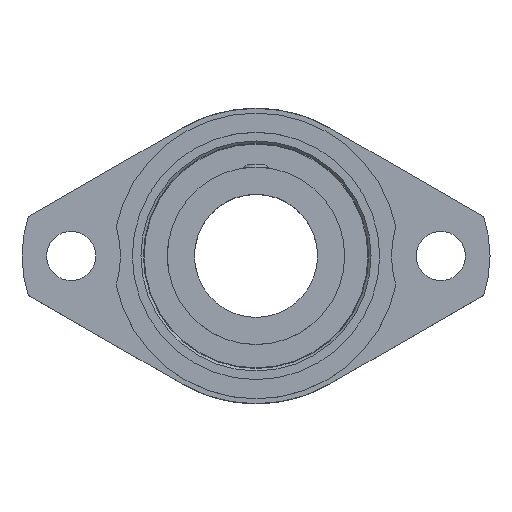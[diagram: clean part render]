
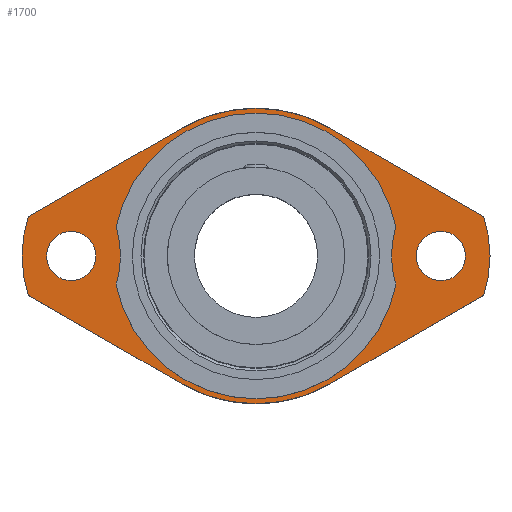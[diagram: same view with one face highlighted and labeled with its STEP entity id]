
A CAD part, top view. The second image highlights one B-rep face of the part: STEP entity #1700.
In plain terms, the highlighted planar face has unit normal (0, 0, 1).
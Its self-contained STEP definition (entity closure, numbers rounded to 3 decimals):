
#672=CARTESIAN_POINT('',(32.5,0.,0.));
#673=VERTEX_POINT('',#672);
#674=CARTESIAN_POINT('',(37.5,0.,0.0));
#675=DIRECTION('',(0.0,0.0,-1.0));
#676=DIRECTION('',(1.0,0.0,0.0));
#677=AXIS2_PLACEMENT_3D('',#674,#675,#676);
#678=CIRCLE('',#677,5.0);
#679=EDGE_CURVE('',#673,#673,#678,.T.);
#692=CARTESIAN_POINT('',(-42.5,0.,0.));
#693=VERTEX_POINT('',#692);
#694=CARTESIAN_POINT('',(-37.5,0.0,0.0));
#695=DIRECTION('',(0.0,0.0,-1.0));
#696=DIRECTION('',(1.0,0.0,0.0));
#697=AXIS2_PLACEMENT_3D('',#694,#695,#696);
#698=CIRCLE('',#697,5.0);
#699=EDGE_CURVE('',#693,#693,#698,.T.);
#1338=CARTESIAN_POINT('',(-28.392,-5.907,0.0));
#1339=VERTEX_POINT('',#1338);
#1346=CARTESIAN_POINT('',(28.392,-5.907,0.0));
#1347=VERTEX_POINT('',#1346);
#1348=CARTESIAN_POINT('',(0.0,0.0,0.0));
#1349=DIRECTION('',(0.0,0.0,-1.0));
#1350=DIRECTION('',(0.979,0.204,0.0));
#1351=AXIS2_PLACEMENT_3D('',#1348,#1349,#1350);
#1352=CIRCLE('',#1351,29.0);
#1353=EDGE_CURVE('',#1347,#1339,#1352,.T.);
#1378=CARTESIAN_POINT('',(-28.392,5.907,0.0));
#1379=VERTEX_POINT('',#1378);
#1386=CARTESIAN_POINT('',(-47.5,0.0,0.0));
#1387=DIRECTION('',(0.0,0.0,1.0));
#1388=DIRECTION('',(0.955,-0.295,0.0));
#1389=AXIS2_PLACEMENT_3D('',#1386,#1387,#1388);
#1390=CIRCLE('',#1389,20.0);
#1391=EDGE_CURVE('',#1339,#1379,#1390,.T.);
#1411=CARTESIAN_POINT('',(28.392,5.907,0.0));
#1412=VERTEX_POINT('',#1411);
#1419=CARTESIAN_POINT('',(0.0,0.0,0.0));
#1420=DIRECTION('',(0.0,0.0,-1.0));
#1421=DIRECTION('',(-0.979,-0.204,0.0));
#1422=AXIS2_PLACEMENT_3D('',#1419,#1420,#1421);
#1423=CIRCLE('',#1422,29.0);
#1424=EDGE_CURVE('',#1379,#1412,#1423,.T.);
#1443=CARTESIAN_POINT('',(47.5,0.,0.0));
#1444=DIRECTION('',(0.0,0.0,1.0));
#1445=DIRECTION('',(-0.955,0.295,0.0));
#1446=AXIS2_PLACEMENT_3D('',#1443,#1444,#1445);
#1447=CIRCLE('',#1446,20.0);
#1448=EDGE_CURVE('',#1412,#1347,#1447,.T.);
#1474=CARTESIAN_POINT('',(46.185,-8.0,0.0));
#1475=VERTEX_POINT('',#1474);
#1476=CARTESIAN_POINT('',(14.985,-25.989,0.0));
#1477=VERTEX_POINT('',#1476);
#1478=CARTESIAN_POINT('',(46.185,-8.0,0.0));
#1479=DIRECTION('',(-0.866,-0.499,0.0));
#1480=VECTOR('',#1479,36.015);
#1481=LINE('',#1478,#1480);
#1482=EDGE_CURVE('',#1475,#1477,#1481,.T.);
#1508=CARTESIAN_POINT('',(-14.985,-25.989,0.0));
#1509=VERTEX_POINT('',#1508);
#1510=CARTESIAN_POINT('',(0.0,0.0,0.0));
#1511=DIRECTION('',(0.0,0.0,-1.0));
#1512=DIRECTION('',(0.499,0.866,0.0));
#1513=AXIS2_PLACEMENT_3D('',#1510,#1511,#1512);
#1514=CIRCLE('',#1513,30.);
#1515=EDGE_CURVE('',#1477,#1509,#1514,.T.);
#1534=CARTESIAN_POINT('',(-46.185,-8.0,0.0));
#1535=VERTEX_POINT('',#1534);
#1536=CARTESIAN_POINT('',(-14.985,-25.989,0.0));
#1537=DIRECTION('',(-0.866,0.499,0.0));
#1538=VECTOR('',#1537,36.015);
#1539=LINE('',#1536,#1538);
#1540=EDGE_CURVE('',#1509,#1535,#1539,.T.);
#1558=CARTESIAN_POINT('',(-46.185,8.0,0.0));
#1559=VERTEX_POINT('',#1558);
#1560=CARTESIAN_POINT('',(-22.5,0.0,0.0));
#1561=DIRECTION('',(0.0,0.0,-1.0));
#1562=DIRECTION('',(0.947,-0.32,0.0));
#1563=AXIS2_PLACEMENT_3D('',#1560,#1561,#1562);
#1564=CIRCLE('',#1563,25.);
#1565=EDGE_CURVE('',#1535,#1559,#1564,.T.);
#1583=CARTESIAN_POINT('',(-14.985,25.989,0.0));
#1584=VERTEX_POINT('',#1583);
#1585=CARTESIAN_POINT('',(-46.185,8.0,0.0));
#1586=DIRECTION('',(0.866,0.499,0.0));
#1587=VECTOR('',#1586,36.015);
#1588=LINE('',#1585,#1587);
#1589=EDGE_CURVE('',#1559,#1584,#1588,.T.);
#1610=CARTESIAN_POINT('',(14.985,25.989,0.0));
#1611=VERTEX_POINT('',#1610);
#1612=CARTESIAN_POINT('',(0.0,0.0,0.0));
#1613=DIRECTION('',(0.0,0.0,-1.0));
#1614=DIRECTION('',(-0.499,-0.866,0.0));
#1615=AXIS2_PLACEMENT_3D('',#1612,#1613,#1614);
#1616=CIRCLE('',#1615,30.);
#1617=EDGE_CURVE('',#1584,#1611,#1616,.T.);
#1636=CARTESIAN_POINT('',(46.185,8.0,0.0));
#1637=VERTEX_POINT('',#1636);
#1638=CARTESIAN_POINT('',(14.985,25.989,0.0));
#1639=DIRECTION('',(0.866,-0.499,0.0));
#1640=VECTOR('',#1639,36.015);
#1641=LINE('',#1638,#1640);
#1642=EDGE_CURVE('',#1611,#1637,#1641,.T.);
#1660=CARTESIAN_POINT('',(22.5,0.0,0.0));
#1661=DIRECTION('',(0.0,0.0,-1.0));
#1662=DIRECTION('',(-0.947,0.32,0.0));
#1663=AXIS2_PLACEMENT_3D('',#1660,#1661,#1662);
#1664=CIRCLE('',#1663,25.);
#1665=EDGE_CURVE('',#1637,#1475,#1664,.T.);
#1673=CARTESIAN_POINT('',(0.,0.0,0.0));
#1674=DIRECTION('',(0.0,0.0,1.0));
#1675=DIRECTION('',(1.0,0.0,0.0));
#1676=AXIS2_PLACEMENT_3D('',#1673,#1674,#1675);
#1677=PLANE('',#1676);
#1678=ORIENTED_EDGE('',*,*,#1482,.F.);
#1679=ORIENTED_EDGE('',*,*,#1665,.F.);
#1680=ORIENTED_EDGE('',*,*,#1642,.F.);
#1681=ORIENTED_EDGE('',*,*,#1617,.F.);
#1682=ORIENTED_EDGE('',*,*,#1589,.F.);
#1683=ORIENTED_EDGE('',*,*,#1565,.F.);
#1684=ORIENTED_EDGE('',*,*,#1540,.F.);
#1685=ORIENTED_EDGE('',*,*,#1515,.F.);
#1686=EDGE_LOOP('',(#1678,#1679,#1680,#1681,#1682,#1683,#1684,#1685));
#1687=FACE_OUTER_BOUND('',#1686,.T.);
#1688=ORIENTED_EDGE('',*,*,#679,.T.);
#1689=EDGE_LOOP('',(#1688));
#1690=FACE_BOUND('',#1689,.T.);
#1691=ORIENTED_EDGE('',*,*,#699,.T.);
#1692=EDGE_LOOP('',(#1691));
#1693=FACE_BOUND('',#1692,.T.);
#1694=ORIENTED_EDGE('',*,*,#1353,.T.);
#1695=ORIENTED_EDGE('',*,*,#1391,.T.);
#1696=ORIENTED_EDGE('',*,*,#1424,.T.);
#1697=ORIENTED_EDGE('',*,*,#1448,.T.);
#1698=EDGE_LOOP('',(#1694,#1695,#1696,#1697));
#1699=FACE_BOUND('',#1698,.T.);
#1700=ADVANCED_FACE('',(#1687,#1690,#1693,#1699),#1677,.T.);
